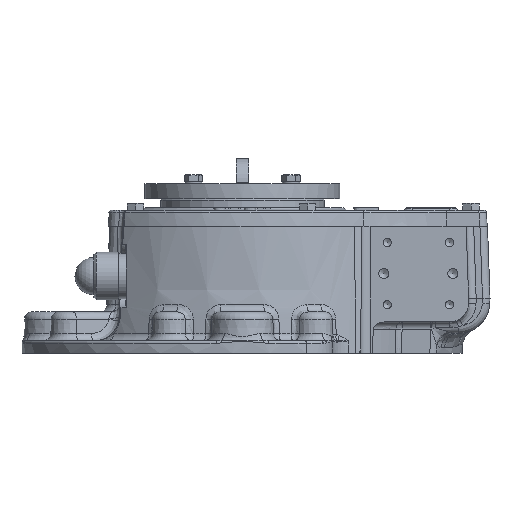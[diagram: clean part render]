
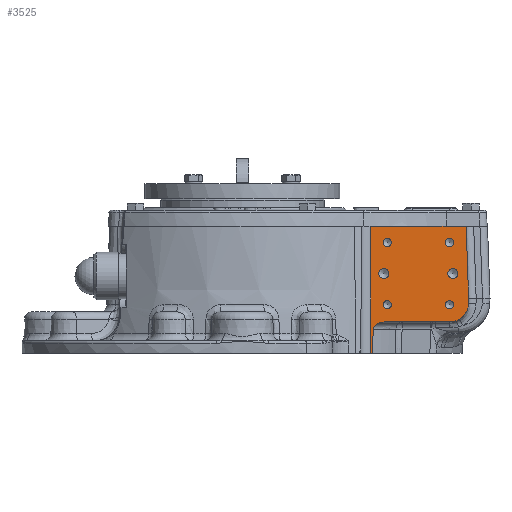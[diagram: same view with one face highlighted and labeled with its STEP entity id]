
A CAD part, front view. The second image highlights one B-rep face of the part: STEP entity #3525.
In plain terms, the highlighted planar face has unit normal (0, -1, 0).
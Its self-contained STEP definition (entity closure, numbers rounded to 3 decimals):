
#3525 = ADVANCED_FACE( '', ( #7712, #7713, #7714, #7715, #7716, #7717, #7718 ), #7719, .F. );
#7712 = FACE_BOUND( '', #29827, .T. );
#7713 = FACE_BOUND( '', #29828, .T. );
#7714 = FACE_BOUND( '', #29829, .T. );
#7715 = FACE_BOUND( '', #29830, .T. );
#7716 = FACE_BOUND( '', #29831, .T. );
#7717 = FACE_BOUND( '', #29832, .T. );
#7718 = FACE_OUTER_BOUND( '', #29833, .T. );
#7719 = PLANE( '', #29834 );
#29827 = EDGE_LOOP( '', ( #46331 ) );
#29828 = EDGE_LOOP( '', ( #46332 ) );
#29829 = EDGE_LOOP( '', ( #46333 ) );
#29830 = EDGE_LOOP( '', ( #46334 ) );
#29831 = EDGE_LOOP( '', ( #46335 ) );
#29832 = EDGE_LOOP( '', ( #46336 ) );
#29833 = EDGE_LOOP( '', ( #46337, #46338, #46339, #46340, #46341, #46342, #46343, #46344, #46345 ) );
#29834 = AXIS2_PLACEMENT_3D( '', #46346, #46347, #46348 );
#46331 = ORIENTED_EDGE( '', *, *, #51681, .T. );
#46332 = ORIENTED_EDGE( '', *, *, #49942, .T. );
#46333 = ORIENTED_EDGE( '', *, *, #51880, .T. );
#46334 = ORIENTED_EDGE( '', *, *, #53847, .T. );
#46335 = ORIENTED_EDGE( '', *, *, #53848, .T. );
#46336 = ORIENTED_EDGE( '', *, *, #53849, .T. );
#46337 = ORIENTED_EDGE( '', *, *, #51372, .T. );
#46338 = ORIENTED_EDGE( '', *, *, #53730, .T. );
#46339 = ORIENTED_EDGE( '', *, *, #52014, .F. );
#46340 = ORIENTED_EDGE( '', *, *, #51055, .T. );
#46341 = ORIENTED_EDGE( '', *, *, #53836, .F. );
#46342 = ORIENTED_EDGE( '', *, *, #53363, .F. );
#46343 = ORIENTED_EDGE( '', *, *, #53148, .F. );
#46344 = ORIENTED_EDGE( '', *, *, #53464, .T. );
#46345 = ORIENTED_EDGE( '', *, *, #53673, .F. );
#46346 = CARTESIAN_POINT( '', ( 178.01, -109.375, -418.811 ) );
#46347 = DIRECTION( '', ( 0., 1., 0. ) );
#46348 = DIRECTION( '', ( -1., 0., 0. ) );
#49942 = EDGE_CURVE( '', #54703, #54703, #54704, .T. );
#51055 = EDGE_CURVE( '', #56602, #56603, #56604, .T. );
#51372 = EDGE_CURVE( '', #57110, #57108, #57111, .T. );
#51681 = EDGE_CURVE( '', #57592, #57592, #57593, .T. );
#51880 = EDGE_CURVE( '', #57889, #57889, #57890, .T. );
#52014 = EDGE_CURVE( '', #56602, #58101, #58102, .T. );
#53148 = EDGE_CURVE( '', #59662, #59664, #59665, .T. );
#53363 = EDGE_CURVE( '', #59664, #59920, #59921, .T. );
#53464 = EDGE_CURVE( '', #59662, #60043, #60045, .T. );
#53673 = EDGE_CURVE( '', #57110, #60043, #60306, .T. );
#53730 = EDGE_CURVE( '', #57108, #58101, #60373, .T. );
#53836 = EDGE_CURVE( '', #59920, #56603, #60493, .F. );
#53847 = EDGE_CURVE( '', #60506, #60506, #60507, .T. );
#53848 = EDGE_CURVE( '', #60508, #60508, #60509, .T. );
#53849 = EDGE_CURVE( '', #60510, #60510, #60511, .T. );
#54703 = VERTEX_POINT( '', #61629 );
#54704 = CIRCLE( '', #61630, 4. );
#56602 = VERTEX_POINT( '', #68061 );
#56603 = VERTEX_POINT( '', #68062 );
#56604 = LINE( '', #68063, #68064 );
#57108 = VERTEX_POINT( '', #69762 );
#57110 = VERTEX_POINT( '', #69764 );
#57111 = LINE( '', #69765, #69766 );
#57592 = VERTEX_POINT( '', #72168 );
#57593 = CIRCLE( '', #72169, 4. );
#57889 = VERTEX_POINT( '', #73496 );
#57890 = CIRCLE( '', #73497, 3.324 );
#58101 = VERTEX_POINT( '', #74093 );
#58102 = B_SPLINE_CURVE_WITH_KNOTS( '', 3, ( #74094, #74095, #74096, #74097, #74098, #74099, #74100, #74101, #74102, #74103, #74104, #74105, #74106, #74107, #74108, #74109, #74110, #74111, #74112, #74113, #74114, #74115 ), .UNSPECIFIED., .F., .F., ( 4, 2, 2, 2, 2, 2, 2, 2, 2, 2, 4 ), ( 0.035, 0.037, 0.038, 0.04, 0.04, 0.041, 0.042, 0.044, 0.045, 0.045, 0.047 ), .UNSPECIFIED. );
#59662 = VERTEX_POINT( '', #79916 );
#59664 = VERTEX_POINT( '', #79919 );
#59665 = LINE( '', #79920, #79921 );
#59920 = VERTEX_POINT( '', #80728 );
#59921 = LINE( '', #80729, #80730 );
#60043 = VERTEX_POINT( '', #81129 );
#60045 = LINE( '', #81131, #81132 );
#60306 = LINE( '', #82064, #82065 );
#60373 = B_SPLINE_CURVE_WITH_KNOTS( '', 3, ( #82327, #82328, #82329, #82330 ), .UNSPECIFIED., .F., .F., ( 4, 4 ), ( 0.048, 0.067 ), .UNSPECIFIED. );
#60493 = CIRCLE( '', #82918, 15. );
#60506 = VERTEX_POINT( '', #82943 );
#60507 = CIRCLE( '', #82944, 3.324 );
#60508 = VERTEX_POINT( '', #82945 );
#60509 = CIRCLE( '', #82946, 3.324 );
#60510 = VERTEX_POINT( '', #82947 );
#60511 = CIRCLE( '', #82948, 3.324 );
#61629 = CARTESIAN_POINT( '', ( 116.5, -109.375, 67.5 ) );
#61630 = AXIS2_PLACEMENT_3D( '', #85396, #85397, #85398 );
#68061 = CARTESIAN_POINT( '', ( 112.712, -109.375, 29. ) );
#68062 = CARTESIAN_POINT( '', ( 164.851, -109.375, 29. ) );
#68063 = CARTESIAN_POINT( '', ( 137.747, -109.375, 29. ) );
#68064 = VECTOR( '', #86717, 1000. );
#69762 = CARTESIAN_POINT( '', ( 103.219, -109.375, 4. ) );
#69764 = CARTESIAN_POINT( '', ( 102., -109.375, 4. ) );
#69765 = CARTESIAN_POINT( '', ( -65., -109.375, 4. ) );
#69766 = VECTOR( '', #87138, 1000. );
#72168 = CARTESIAN_POINT( '', ( 171.5, -109.375, 67.5 ) );
#72169 = AXIS2_PLACEMENT_3D( '', #87505, #87506, #87507 );
#73496 = CARTESIAN_POINT( '', ( 115.251, -109.375, 46.075 ) );
#73497 = AXIS2_PLACEMENT_3D( '', #87734, #87735, #87736 );
#74093 = CARTESIAN_POINT( '', ( 104.194, -109.375, 23.209 ) );
#74094 = CARTESIAN_POINT( '', ( 112.712, -109.375, 29. ) );
#74095 = CARTESIAN_POINT( '', ( 112.244, -109.375, 29. ) );
#74096 = CARTESIAN_POINT( '', ( 111.777, -109.375, 28.972 ) );
#74097 = CARTESIAN_POINT( '', ( 110.841, -109.375, 28.859 ) );
#74098 = CARTESIAN_POINT( '', ( 110.379, -109.375, 28.774 ) );
#74099 = CARTESIAN_POINT( '', ( 109.475, -109.375, 28.549 ) );
#74100 = CARTESIAN_POINT( '', ( 109.032, -109.375, 28.409 ) );
#74101 = CARTESIAN_POINT( '', ( 108.382, -109.375, 28.153 ) );
#74102 = CARTESIAN_POINT( '', ( 108.168, -109.375, 28.061 ) );
#74103 = CARTESIAN_POINT( '', ( 107.745, -109.375, 27.858 ) );
#74104 = CARTESIAN_POINT( '', ( 107.535, -109.375, 27.748 ) );
#74105 = CARTESIAN_POINT( '', ( 106.921, -109.375, 27.394 ) );
#74106 = CARTESIAN_POINT( '', ( 106.535, -109.375, 27.128 ) );
#74107 = CARTESIAN_POINT( '', ( 105.817, -109.375, 26.523 ) );
#74108 = CARTESIAN_POINT( '', ( 105.482, -109.375, 26.181 ) );
#74109 = CARTESIAN_POINT( '', ( 105.055, -109.375, 25.621 ) );
#74110 = CARTESIAN_POINT( '', ( 104.924, -109.375, 25.427 ) );
#74111 = CARTESIAN_POINT( '', ( 104.689, -109.375, 25.019 ) );
#74112 = CARTESIAN_POINT( '', ( 104.584, -109.375, 24.804 ) );
#74113 = CARTESIAN_POINT( '', ( 104.322, -109.375, 24.141 ) );
#74114 = CARTESIAN_POINT( '', ( 104.218, -109.375, 23.682 ) );
#74115 = CARTESIAN_POINT( '', ( 104.194, -109.375, 23.209 ) );
#79916 = CARTESIAN_POINT( '', ( 178.01, -109.375, 105. ) );
#79919 = CARTESIAN_POINT( '', ( 180., -109.375, 48. ) );
#79920 = CARTESIAN_POINT( '', ( 180., -109.375, 48. ) );
#79921 = VECTOR( '', #89144, 1000. );
#80728 = CARTESIAN_POINT( '', ( 179.842, -109.375, 43.477 ) );
#80729 = CARTESIAN_POINT( '', ( 180., -109.375, 48. ) );
#80730 = VECTOR( '', #89344, 1000. );
#81129 = CARTESIAN_POINT( '', ( 102., -109.375, 105. ) );
#81131 = CARTESIAN_POINT( '', ( 178.01, -109.375, 105. ) );
#81132 = VECTOR( '', #89449, 1000. );
#82064 = CARTESIAN_POINT( '', ( 102., -109.375, -418.811 ) );
#82065 = VECTOR( '', #89628, 1000. );
#82327 = CARTESIAN_POINT( '', ( 103.219, -109.375, 4. ) );
#82328 = CARTESIAN_POINT( '', ( 103.545, -109.375, 10.403 ) );
#82329 = CARTESIAN_POINT( '', ( 103.87, -109.375, 16.806 ) );
#82330 = CARTESIAN_POINT( '', ( 104.194, -109.375, 23.209 ) );
#82918 = AXIS2_PLACEMENT_3D( '', #89751, #89752, #89753 );
#82943 = CARTESIAN_POINT( '', ( 161.425, -109.375, 42.751 ) );
#82944 = AXIS2_PLACEMENT_3D( '', #89763, #89764, #89765 );
#82945 = CARTESIAN_POINT( '', ( 164.749, -109.375, 88.925 ) );
#82946 = AXIS2_PLACEMENT_3D( '', #89766, #89767, #89768 );
#82947 = CARTESIAN_POINT( '', ( 118.575, -109.375, 92.249 ) );
#82948 = AXIS2_PLACEMENT_3D( '', #89769, #89770, #89771 );
#85396 = CARTESIAN_POINT( '', ( 112.5, -109.375, 67.5 ) );
#85397 = DIRECTION( '', ( 0., 1., 0. ) );
#85398 = DIRECTION( '', ( 1., 0., 0. ) );
#86717 = DIRECTION( '', ( 1., 0., 0. ) );
#87138 = DIRECTION( '', ( 1., 0., 0. ) );
#87505 = CARTESIAN_POINT( '', ( 167.5, -109.375, 67.5 ) );
#87506 = DIRECTION( '', ( 0., 1., 0. ) );
#87507 = DIRECTION( '', ( 1., 0., 0. ) );
#87734 = CARTESIAN_POINT( '', ( 115.251, -109.375, 42.751 ) );
#87735 = DIRECTION( '', ( 0., 1., 0. ) );
#87736 = DIRECTION( '', ( 0., 0., 1. ) );
#89144 = DIRECTION( '', ( 0.035, 0., -0.999 ) );
#89344 = DIRECTION( '', ( -0.035, 0., -0.999 ) );
#89449 = DIRECTION( '', ( -1., 0., 0. ) );
#89628 = DIRECTION( '', ( 0., 0., 1. ) );
#89751 = CARTESIAN_POINT( '', ( 164.851, -109.375, 44. ) );
#89752 = DIRECTION( '', ( 0., -1., 0. ) );
#89753 = DIRECTION( '', ( 1., 0., 0. ) );
#89763 = CARTESIAN_POINT( '', ( 164.749, -109.375, 42.751 ) );
#89764 = DIRECTION( '', ( 0., 1., 0. ) );
#89765 = DIRECTION( '', ( -1., 0., 0. ) );
#89766 = CARTESIAN_POINT( '', ( 164.749, -109.375, 92.249 ) );
#89767 = DIRECTION( '', ( 0., 1., 0. ) );
#89768 = DIRECTION( '', ( 0., 0., -1. ) );
#89769 = CARTESIAN_POINT( '', ( 115.251, -109.375, 92.249 ) );
#89770 = DIRECTION( '', ( 0., 1., 0. ) );
#89771 = DIRECTION( '', ( 1., 0., 0. ) );
